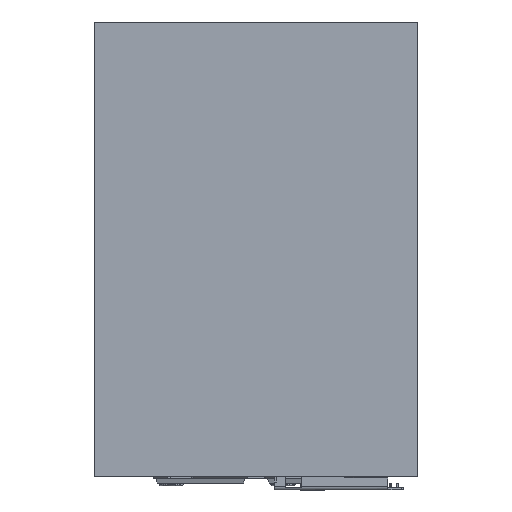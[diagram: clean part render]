
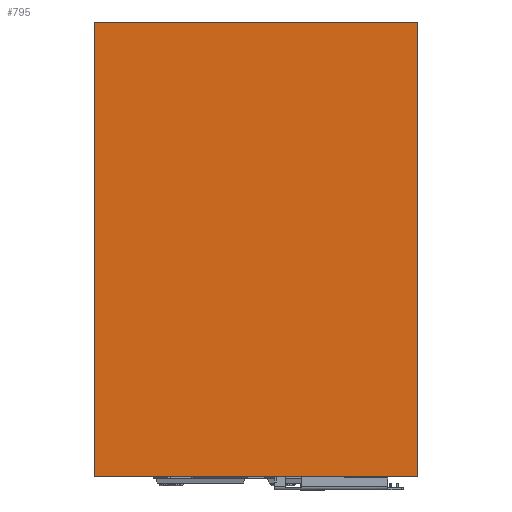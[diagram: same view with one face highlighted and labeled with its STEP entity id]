
A CAD part, left-side view. The second image highlights one B-rep face of the part: STEP entity #795.
In plain terms, the highlighted planar face has unit normal (-1, 0, 0).
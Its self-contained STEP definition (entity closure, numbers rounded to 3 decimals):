
#113 = EDGE_CURVE ( 'NONE', #683, #3763, #3528, .T. ) ;
#219 = CARTESIAN_POINT ( 'NONE',  ( 2.5, -29., 0. ) ) ;
#596 = DIRECTION ( 'NONE',  ( 0., 0., -1. ) ) ;
#683 = VERTEX_POINT ( 'NONE', #2555 ) ;
#795 = ADVANCED_FACE ( 'NONE', ( #2872 ), #1506, .F. ) ;
#915 = ORIENTED_EDGE ( 'NONE', *, *, #990, .F. ) ;
#990 = EDGE_CURVE ( 'NONE', #1351, #3763, #2790, .T. ) ;
#1007 = CARTESIAN_POINT ( 'NONE',  ( 2.5, 155.9, -260. ) ) ;
#1036 = CARTESIAN_POINT ( 'NONE',  ( 2.5, 156., 0. ) ) ;
#1192 = EDGE_CURVE ( 'NONE', #1351, #1717, #2547, .T. ) ;
#1205 = EDGE_LOOP ( 'NONE', ( #915, #2404, #3986, #1688 ) ) ;
#1351 = VERTEX_POINT ( 'NONE', #2468 ) ;
#1463 = CARTESIAN_POINT ( 'NONE',  ( 2.5, -29., 0. ) ) ;
#1506 = PLANE ( 'NONE',  #2732 ) ;
#1688 = ORIENTED_EDGE ( 'NONE', *, *, #113, .T. ) ;
#1717 = VERTEX_POINT ( 'NONE', #1036 ) ;
#1725 = EDGE_CURVE ( 'NONE', #1717, #683, #2084, .T. ) ;
#2066 = CARTESIAN_POINT ( 'NONE',  ( 2.5, -29., -260. ) ) ;
#2084 = LINE ( 'NONE', #2697, #2101 ) ;
#2101 = VECTOR ( 'NONE', #596, 1000. ) ;
#2404 = ORIENTED_EDGE ( 'NONE', *, *, #1192, .T. ) ;
#2468 = CARTESIAN_POINT ( 'NONE',  ( 2.5, -29., 0. ) ) ;
#2511 = VECTOR ( 'NONE', #3465, 1000. ) ;
#2547 = LINE ( 'NONE', #2644, #2511 ) ;
#2555 = CARTESIAN_POINT ( 'NONE',  ( 2.5, 156., -260. ) ) ;
#2644 = CARTESIAN_POINT ( 'NONE',  ( 2.5, -29., 0. ) ) ;
#2697 = CARTESIAN_POINT ( 'NONE',  ( 2.5, 156., 0. ) ) ;
#2732 = AXIS2_PLACEMENT_3D ( 'NONE', #219, #3592, #4168 ) ;
#2755 = VECTOR ( 'NONE', #2760, 1000. ) ;
#2760 = DIRECTION ( 'NONE',  ( 0., 0., -1. ) ) ;
#2790 = LINE ( 'NONE', #1463, #2755 ) ;
#2872 = FACE_OUTER_BOUND ( 'NONE', #1205, .T. ) ;
#3340 = DIRECTION ( 'NONE',  ( 0., -1., 0. ) ) ;
#3465 = DIRECTION ( 'NONE',  ( 0., 1., 0. ) ) ;
#3528 = LINE ( 'NONE', #1007, #3556 ) ;
#3556 = VECTOR ( 'NONE', #3340, 1000. ) ;
#3592 = DIRECTION ( 'NONE',  ( 1., 0., 0. ) ) ;
#3763 = VERTEX_POINT ( 'NONE', #2066 ) ;
#3986 = ORIENTED_EDGE ( 'NONE', *, *, #1725, .T. ) ;
#4168 = DIRECTION ( 'NONE',  ( 0., 0., 1. ) ) ;
